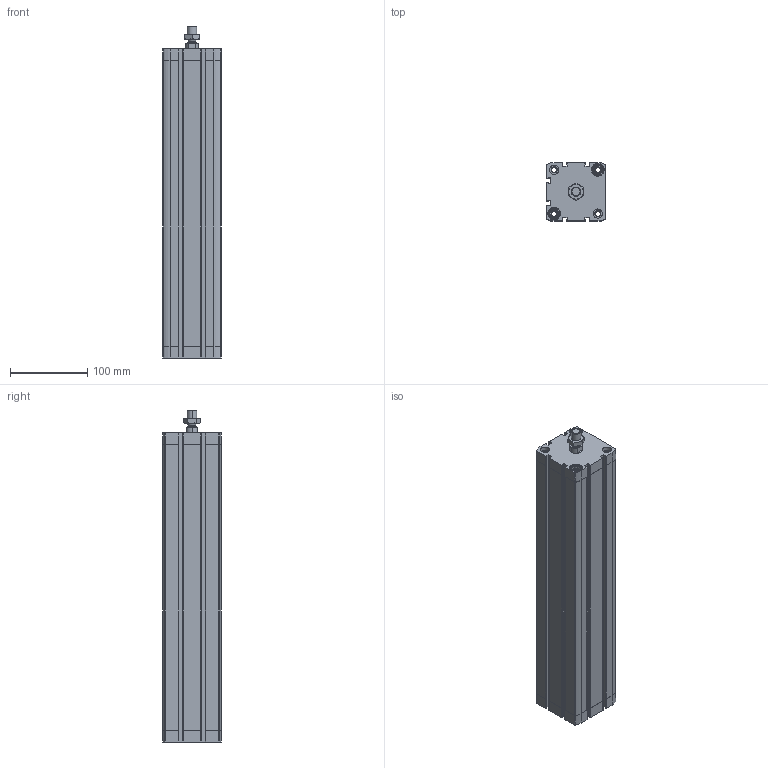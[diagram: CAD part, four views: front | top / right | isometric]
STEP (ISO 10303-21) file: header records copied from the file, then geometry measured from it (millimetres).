
FILE_DESCRIPTION (( 'STEP AP203' ), '1' );
FILE_NAME ('CCN63-350M.STEP', '2017-04-05T18:30:24', ( '' ), ( '' ), 'SwSTEP 2.0', 'SolidWorks 2016', '' );
FILE_SCHEMA (( 'CONFIG_CONTROL_DESIGN' ));
Length unit declared in the file: millimetre
Products named in the file (4): CCN---(Z); CCN_(KS); _DIN-439-B - M12x1.25(F); CCN63-350M
Assembly tree (3 placements, depth 2):
  CCN63-350M
    CCN---(Z)
    CCN_(KS)
    _DIN-439-B - M12x1.25(F)
Bounding box: 75.5 x 75.5 x 428.5 mm (x, y, z)
Volume: 1078567.9 mm3; surface area: 303225.5 mm2
Topology: 3 solids, 3 shells, 491 faces, 1326 edges, 872 vertices
Faces by surface type: plane 227, cylinder 212, cone 48, bspline 4
Entity records: 16172 total; most frequent: CARTESIAN_POINT 3155, DIRECTION 2692, ORIENTED_EDGE 2652, EDGE_CURVE 1326, AXIS2_PLACEMENT_3D 987, VERTEX_POINT 872, LINE 718, VECTOR 718
